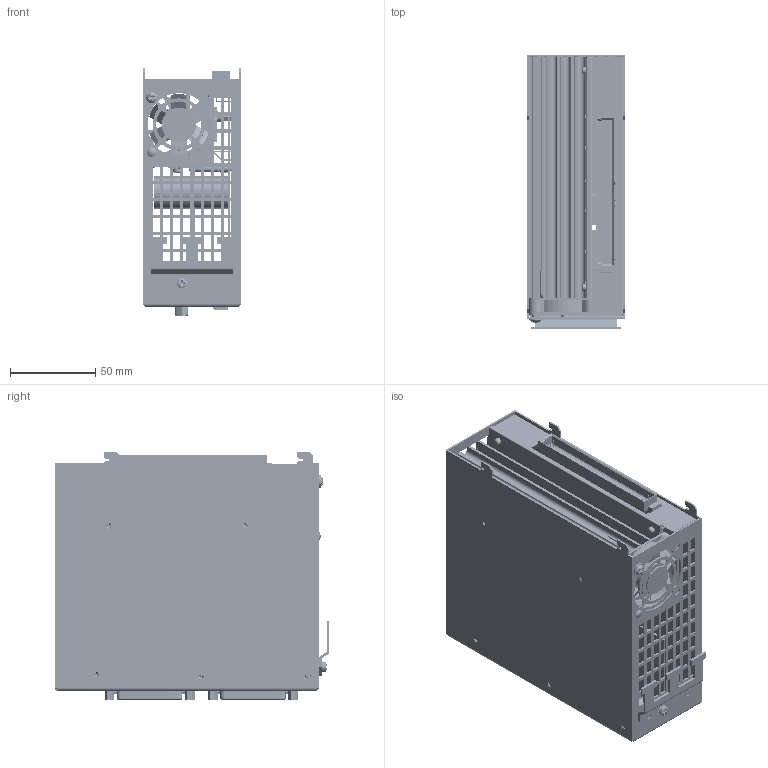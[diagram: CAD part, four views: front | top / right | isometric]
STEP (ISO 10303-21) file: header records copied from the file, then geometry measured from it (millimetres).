
FILE_DESCRIPTION (( 'STEP AP203' ), '1' );
FILE_NAME ('extern3d_09-404-121_MDD121_20100330.STEP', '2010-03-30T08:00:23', ( 'Anwender' ), ( 'SIGMATEK GMBH & CO KG' ), 'SwSTEP 2.0', 'SolidWorks 2009', '' );
FILE_SCHEMA (( 'CONFIG_CONTROL_DESIGN' ));
Products named in the file (1): extern3d_09-404-121_MDD121_20100330
Bounding box: 57.3 x 160.6 x 144.8 mm (x, y, z)
Volume: 298118.3 mm3; surface area: 391945.4 mm2
Topology: 77 solids, 77 shells, 9090 faces, 24281 edges, 15576 vertices
Faces by surface type: plane 5997, cylinder 2189, bspline 528, cone 316, torus 50, sphere 10
Entity records: 305619 total; most frequent: CARTESIAN_POINT 79815, ORIENTED_EDGE 48482, DIRECTION 44273, EDGE_CURVE 24241, VECTOR 16475, LINE 16475, VERTEX_POINT 15570, AXIS2_PLACEMENT_3D 13899
